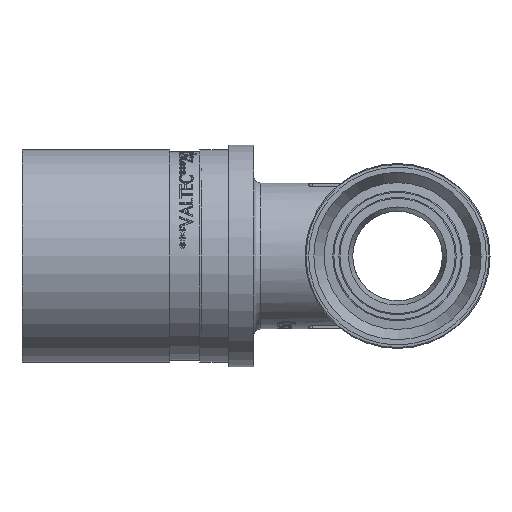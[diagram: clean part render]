
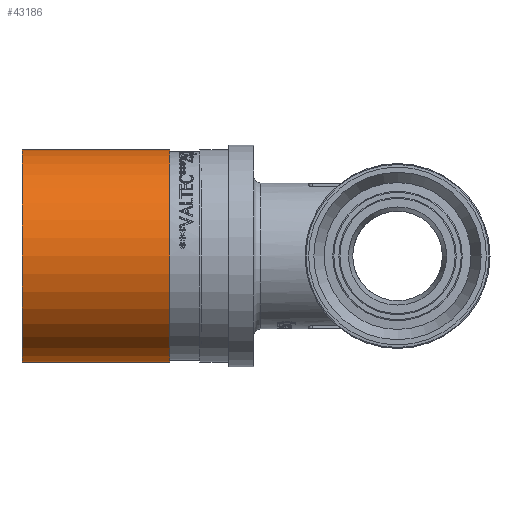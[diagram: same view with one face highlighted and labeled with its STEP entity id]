
A CAD part, left-side view. The second image highlights one B-rep face of the part: STEP entity #43186.
In plain terms, the highlighted cylindrical face has radius 14.925 mm (diameter 29.85 mm), a full revolution.
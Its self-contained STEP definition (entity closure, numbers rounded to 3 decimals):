
#3569=FACE_OUTER_BOUND('',#6128,.T.);
#6128=EDGE_LOOP('',(#34500,#34501,#34502,#34503,#34504,#34505));
#9141=LINE('',#76049,#12178);
#12178=VECTOR('',#49973,14.925);
#14028=CIRCLE('',#45407,14.925);
#14029=CIRCLE('',#45408,14.925);
#14030=CIRCLE('',#45410,14.925);
#14031=CIRCLE('',#45411,14.925);
#19353=VERTEX_POINT('',#76040);
#19354=VERTEX_POINT('',#76041);
#19355=VERTEX_POINT('',#76045);
#19356=VERTEX_POINT('',#76046);
#24836=EDGE_CURVE('',#19353,#19354,#14028,.T.);
#24837=EDGE_CURVE('',#19354,#19353,#14029,.T.);
#24838=EDGE_CURVE('',#19355,#19356,#14030,.T.);
#24839=EDGE_CURVE('',#19356,#19355,#14031,.T.);
#24840=EDGE_CURVE('',#19356,#19354,#9141,.T.);
#34500=ORIENTED_EDGE('',*,*,#24838,.F.);
#34501=ORIENTED_EDGE('',*,*,#24839,.F.);
#34502=ORIENTED_EDGE('',*,*,#24840,.T.);
#34503=ORIENTED_EDGE('',*,*,#24837,.T.);
#34504=ORIENTED_EDGE('',*,*,#24836,.T.);
#34505=ORIENTED_EDGE('',*,*,#24840,.F.);
#41911=CYLINDRICAL_SURFACE('',#45409,14.925);
#43186=ADVANCED_FACE('',(#3569),#41911,.T.);
#45407=AXIS2_PLACEMENT_3D('',#76042,#49963,#49964);
#45408=AXIS2_PLACEMENT_3D('',#76043,#49965,#49966);
#45409=AXIS2_PLACEMENT_3D('',#76044,#49967,#49968);
#45410=AXIS2_PLACEMENT_3D('',#76047,#49969,#49970);
#45411=AXIS2_PLACEMENT_3D('',#76048,#49971,#49972);
#49963=DIRECTION('center_axis',(0.,-1.,0.));
#49964=DIRECTION('ref_axis',(1.,0.,0.));
#49965=DIRECTION('center_axis',(0.,-1.,0.));
#49966=DIRECTION('ref_axis',(1.,0.,0.));
#49967=DIRECTION('center_axis',(0.,-1.,0.));
#49968=DIRECTION('ref_axis',(1.,0.,0.));
#49969=DIRECTION('center_axis',(0.,-1.,0.));
#49970=DIRECTION('ref_axis',(1.,0.,0.));
#49971=DIRECTION('center_axis',(0.,-1.,0.));
#49972=DIRECTION('ref_axis',(1.,0.,0.));
#49973=DIRECTION('',(0.,1.,0.));
#76040=CARTESIAN_POINT('',(14.925,52.8,0.));
#76041=CARTESIAN_POINT('',(-14.925,52.8,0.));
#76042=CARTESIAN_POINT('Origin',(0.,52.8,
0.));
#76043=CARTESIAN_POINT('Origin',(0.,52.8,
0.));
#76044=CARTESIAN_POINT('Origin',(0.,42.431,
0.));
#76045=CARTESIAN_POINT('',(14.925,32.061,0.));
#76046=CARTESIAN_POINT('',(-14.925,32.061,0.));
#76047=CARTESIAN_POINT('Origin',(0.,32.061,
0.));
#76048=CARTESIAN_POINT('Origin',(0.,32.061,
0.));
#76049=CARTESIAN_POINT('',(-14.925,42.431,0.));
